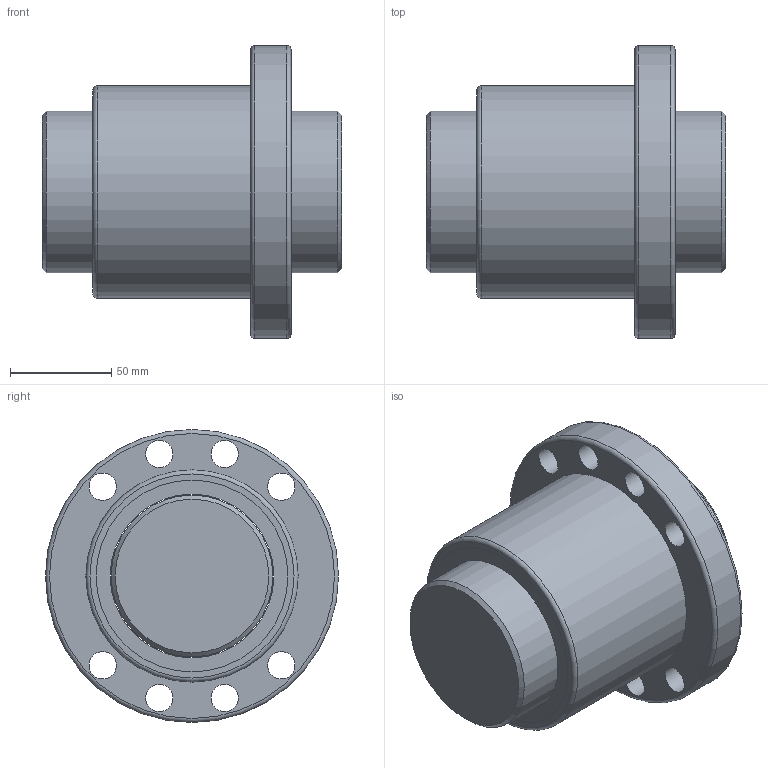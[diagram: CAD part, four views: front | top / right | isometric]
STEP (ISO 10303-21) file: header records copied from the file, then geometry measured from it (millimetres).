
FILE_DESCRIPTION(/* description */ (''),/* implementation_level */ '2;1');
FILE_NAME(/* name */ 'SFU8010',/* time_stamp */ '2007-10-26T13:34:10+08:00',/* author */ (''),/* organization */ (''),/* preprocessor_version */ 'ST-DEVELOPER v9',/* originating_system */ 'EDS PLM SOLUTIONS - UNIGRAPHICS NX 1.0',/* authorisation */ '');
FILE_SCHEMA (('CONFIG_CONTROL_DESIGN'));
Length unit declared in the file: millimetre
Products named in the file (1): FANNDA0400ik
Bounding box: 148 x 145 x 145 mm (x, y, z)
Volume: 1215779.3 mm3; surface area: 148759 mm2
Topology: 4 solids, 4 shells, 34 faces, 72 edges, 49 vertices
Faces by surface type: cylinder 18, plane 11, torus 3, cone 2
Full cylindrical faces by diameter (mm): 13.5 x8, 80 x1, 81 x3, 95 x4, 105 x1, 145 x1
Entity records: 878 total; most frequent: DIRECTION 152, CARTESIAN_POINT 117, EDGE_LOOP 82, ORIENTED_EDGE 82, AXIS2_PLACEMENT_3D 76, FACE_BOUND 69, VERTEX_POINT 41, EDGE_CURVE 41
